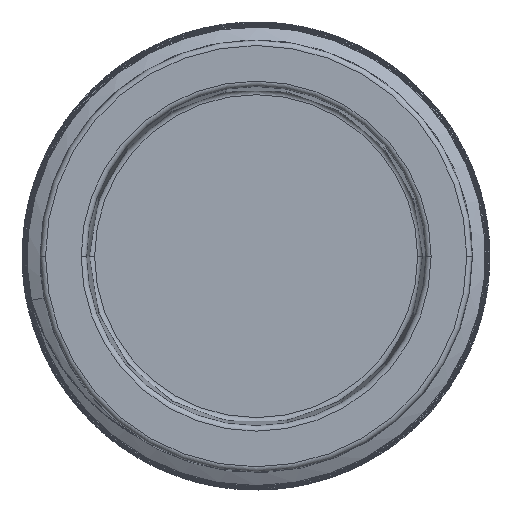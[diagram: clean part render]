
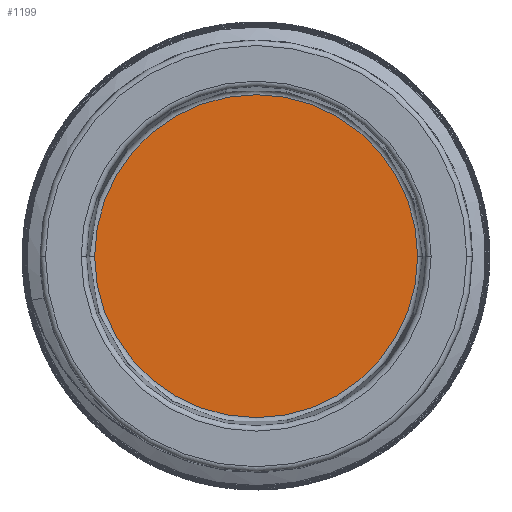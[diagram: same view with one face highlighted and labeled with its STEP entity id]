
A CAD part, front view. The second image highlights one B-rep face of the part: STEP entity #1199.
In plain terms, the highlighted planar face has unit normal (0, -1, 0).
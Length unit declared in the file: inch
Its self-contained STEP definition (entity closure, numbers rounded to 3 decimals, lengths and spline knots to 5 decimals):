
#200=CIRCLE('',#1275,1.19834);
#201=CIRCLE('',#1277,1.19834);
#317=VERTEX_POINT('',#11369);
#318=VERTEX_POINT('',#11371);
#613=EDGE_CURVE('',#318,#317,#200,.T.);
#614=EDGE_CURVE('',#317,#318,#201,.T.);
#965=ORIENTED_EDGE('',*,*,#614,.F.);
#966=ORIENTED_EDGE('',*,*,#613,.F.);
#1046=EDGE_LOOP('',(#965,#966));
#1123=FACE_BOUND('',#1046,.T.);
#1199=ADVANCED_FACE('',(#1123),#11384,.F.);
#1275=AXIS2_PLACEMENT_3D('',#11372,#1473,#1474);
#1276=AXIS2_PLACEMENT_3D('',#11373,#1475,$);
#1277=AXIS2_PLACEMENT_3D('',#11374,#1476,#1477);
#1473=DIRECTION('',(0.,1.,0.));
#1474=DIRECTION('',(0.,0.,1.198));
#1475=DIRECTION('',(0.,1.,0.));
#1476=DIRECTION('',(0.,1.,0.));
#1477=DIRECTION('',(0.,0.,1.198));
#11369=CARTESIAN_POINT('',(-1.19834,0.,0.));
#11371=CARTESIAN_POINT('',(1.19834,0.,0.));
#11372=CARTESIAN_POINT('',(0.,0.,0.));
#11373=CARTESIAN_POINT('',(0.,0.,0.));
#11374=CARTESIAN_POINT('',(0.,0.,0.));
#11384=PLANE('',#1276);
